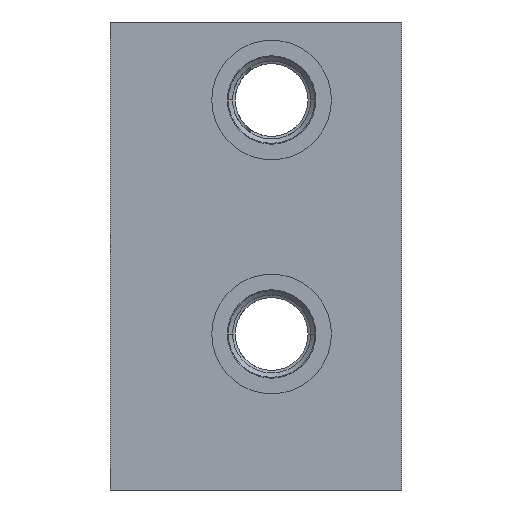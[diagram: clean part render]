
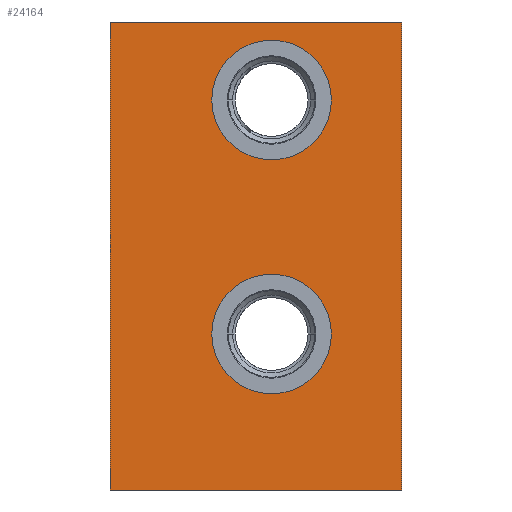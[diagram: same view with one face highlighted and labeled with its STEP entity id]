
A CAD part, front view. The second image highlights one B-rep face of the part: STEP entity #24164.
In plain terms, the highlighted planar face has unit normal (0, -1, 0).
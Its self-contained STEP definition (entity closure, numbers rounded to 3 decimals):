
#52=DIRECTION('',(0.,0.,1.));
#53=VECTOR('',#52,90.);
#54=CARTESIAN_POINT('',(0.,0.,0.));
#55=LINE('',#54,#53);
#59=DIRECTION('',(1.,0.,0.));
#60=VECTOR('',#59,56.);
#61=CARTESIAN_POINT('',(0.,0.,90.));
#62=LINE('',#61,#60);
#66=DIRECTION('',(0.,0.,-1.));
#67=VECTOR('',#66,90.);
#68=CARTESIAN_POINT('',(56.,0.,90.));
#69=LINE('',#68,#67);
#73=DIRECTION('',(-1.,0.,0.));
#74=VECTOR('',#73,56.);
#75=CARTESIAN_POINT('',(56.,0.,0.));
#76=LINE('',#75,#74);
#80=CARTESIAN_POINT('',(31.,0.,75.));
#81=DIRECTION('',(0.,1.,0.));
#82=DIRECTION('',(1.,0.,0.));
#83=AXIS2_PLACEMENT_3D('',#80,#81,#82);
#88=CARTESIAN_POINT('',(31.,0.,75.));
#89=DIRECTION('',(0.,1.,0.));
#90=DIRECTION('',(-1.,0.,0.));
#91=AXIS2_PLACEMENT_3D('',#88,#89,#90);
#96=CARTESIAN_POINT('',(31.,0.,30.));
#97=DIRECTION('',(0.,1.,0.));
#98=DIRECTION('',(1.,0.,0.));
#99=AXIS2_PLACEMENT_3D('',#96,#97,#98);
#104=CARTESIAN_POINT('',(31.,0.,30.));
#105=DIRECTION('',(0.,1.,0.));
#106=DIRECTION('',(-1.,0.,0.));
#107=AXIS2_PLACEMENT_3D('',#104,#105,#106);
#22249=CARTESIAN_POINT('',(0.,0.,0.));
#22250=CARTESIAN_POINT('',(0.,0.,90.));
#22251=VERTEX_POINT('',#22249);
#22252=VERTEX_POINT('',#22250);
#22253=CARTESIAN_POINT('',(56.,0.,90.));
#22254=VERTEX_POINT('',#22253);
#22255=CARTESIAN_POINT('',(56.,0.,0.));
#22256=VERTEX_POINT('',#22255);
#22499=CARTESIAN_POINT('',(42.5,0.,75.));
#22500=VERTEX_POINT('',#22499);
#22501=CARTESIAN_POINT('',(19.5,0.,75.));
#22502=VERTEX_POINT('',#22501);
#22519=CARTESIAN_POINT('',(42.5,0.,30.));
#22520=VERTEX_POINT('',#22519);
#22521=CARTESIAN_POINT('',(19.5,0.,30.));
#22522=VERTEX_POINT('',#22521);
#24137=CARTESIAN_POINT('',(0.,0.,0.));
#24138=DIRECTION('',(0.,1.,0.));
#24139=DIRECTION('',(1.,0.,0.));
#24140=AXIS2_PLACEMENT_3D('',#24137,#24138,#24139);
#24141=PLANE('',#24140);
#24143=ORIENTED_EDGE('',*,*,#24142,.T.);
#24145=ORIENTED_EDGE('',*,*,#24144,.T.);
#24147=ORIENTED_EDGE('',*,*,#24146,.T.);
#24149=ORIENTED_EDGE('',*,*,#24148,.T.);
#24150=EDGE_LOOP('',(#24143,#24145,#24147,#24149));
#24151=FACE_OUTER_BOUND('',#24150,.F.);
#24153=ORIENTED_EDGE('',*,*,#24152,.F.);
#24155=ORIENTED_EDGE('',*,*,#24154,.F.);
#24156=EDGE_LOOP('',(#24153,#24155));
#24157=FACE_BOUND('',#24156,.F.);
#24159=ORIENTED_EDGE('',*,*,#24158,.F.);
#24161=ORIENTED_EDGE('',*,*,#24160,.F.);
#24162=EDGE_LOOP('',(#24159,#24161));
#24163=FACE_BOUND('',#24162,.F.);
#84=CIRCLE('',#83,11.5);
#92=CIRCLE('',#91,11.5);
#100=CIRCLE('',#99,11.5);
#108=CIRCLE('',#107,11.5);
#24142=EDGE_CURVE('',#22251,#22252,#55,.T.);
#24144=EDGE_CURVE('',#22252,#22254,#62,.T.);
#24146=EDGE_CURVE('',#22254,#22256,#69,.T.);
#24148=EDGE_CURVE('',#22256,#22251,#76,.T.);
#24152=EDGE_CURVE('',#22500,#22502,#84,.T.);
#24154=EDGE_CURVE('',#22502,#22500,#92,.T.);
#24158=EDGE_CURVE('',#22520,#22522,#100,.T.);
#24160=EDGE_CURVE('',#22522,#22520,#108,.T.);
#24164=ADVANCED_FACE('',(#24151,#24157,#24163),#24141,.F.);
